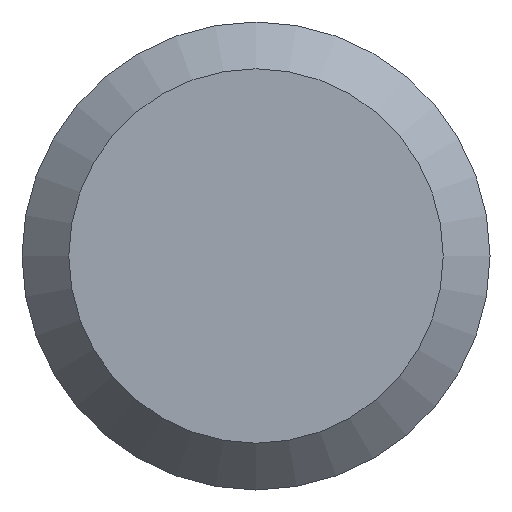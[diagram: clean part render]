
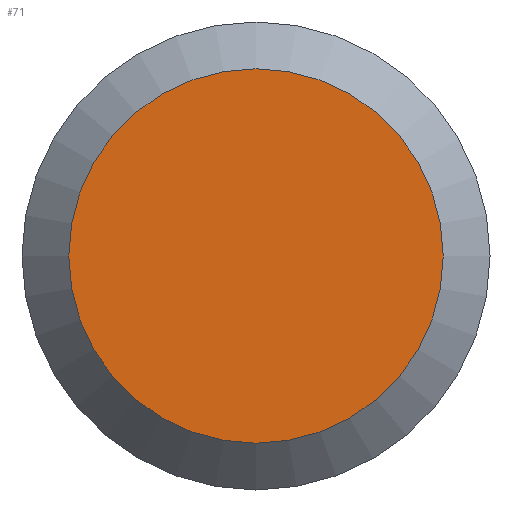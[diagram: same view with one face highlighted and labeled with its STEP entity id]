
A CAD part, front view. The second image highlights one B-rep face of the part: STEP entity #71.
In plain terms, the highlighted planar face has unit normal (0, -1, 0).
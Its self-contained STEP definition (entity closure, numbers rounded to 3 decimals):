
#17=PLANE('',#99);
#19=FACE_OUTER_BOUND('',#24,.T.);
#24=EDGE_LOOP('',(#57));
#36=CIRCLE('',#98,2.);
#41=VERTEX_POINT('',#136);
#47=EDGE_CURVE('',#41,#41,#36,.T.);
#57=ORIENTED_EDGE('',*,*,#47,.F.);
#71=ADVANCED_FACE('',(#19),#17,.T.);
#98=AXIS2_PLACEMENT_3D('',#138,#114,#115);
#99=AXIS2_PLACEMENT_3D('',#139,#116,#117);
#114=DIRECTION('center_axis',(0.,1.,0.));
#115=DIRECTION('ref_axis',(0.,0.,-1.));
#116=DIRECTION('center_axis',(0.,-1.,0.));
#117=DIRECTION('ref_axis',(0.,0.,-1.));
#136=CARTESIAN_POINT('',(0.,0.,2.));
#138=CARTESIAN_POINT('Origin',(0.,0.,0.));
#139=CARTESIAN_POINT('Origin',(0.,0.,2.5));
